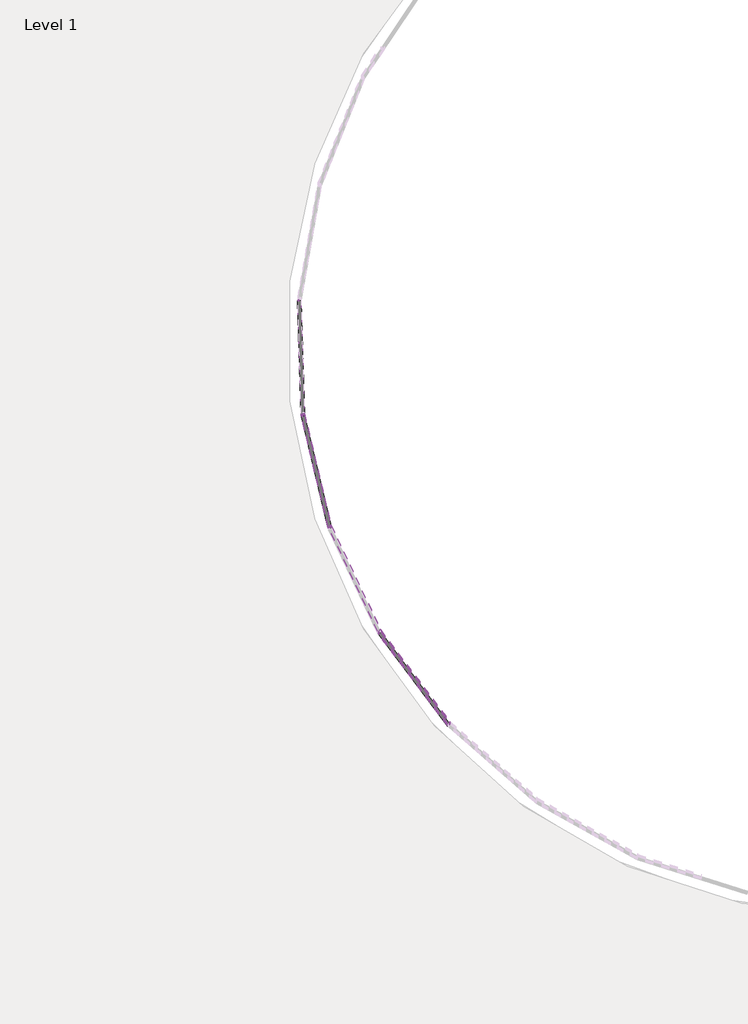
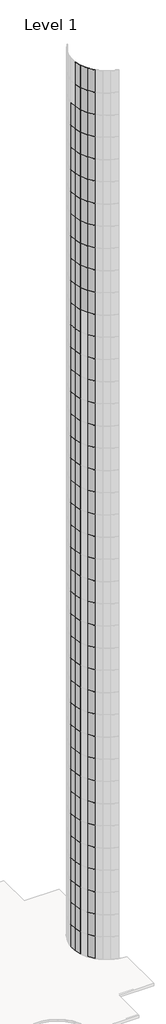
# One storey, part 11 of 19: 129 plates.
"""IFC4 building model written with IfcOpenShell, lengths in millimetres."""

from ifc_helpers import new_model, si_unit, origin, place, context, project, spatial, transform, mapped, element, save
from components import system_panel_glazed_d77d1ebf

model = new_model("IFC4")

# Units and contexts
model_context = context("Model", 3, world=origin())
ifc_project = project(units=[si_unit("LENGTHUNIT", "METRE", prefix="MILLI")], contexts=[model_context])

# Site, building, storey
site = spatial("IfcSite", under=ifc_project)
building = spatial("IfcBuilding", under=site)
storey = spatial("IfcBuildingStorey", under=building, Name="Level 1", Elevation=0.0)

# Plates
placement = place(None, origin())
system_panel_glazed_shape = system_panel_glazed_d77d1ebf(model_context)
element("IfcPlate", 1, ObjectType="System Panel : Glazed", at=placement, inside=storey, context=model_context, shape_type="MappedRepresentation", body=[
    mapped(system_panel_glazed_shape, transform((14455.7045003, -7223.0371257, 0.0), x_axis=(0.2338509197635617, -0.9722724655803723, 0.0), y_axis=(0.9722724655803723, 0.2338509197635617, 0.0), z_axis=(0.0, 0.0, 1.0))),
])
element("IfcPlate", 2, ObjectType="System Panel : Glazed", at=placement, inside=storey, context=model_context, shape_type="MappedRepresentation", body=[
    mapped(system_panel_glazed_shape, transform((15229.6531587, -8858.6471307, 0.0), x_axis=(0.6035123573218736, -0.7973536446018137, 0.0), y_axis=(0.7973536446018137, 0.6035123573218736, 0.0), z_axis=(0.0, 0.0, 1.0))),
])
element("IfcPlate", 3, ObjectType="System Panel : Glazed", at=placement, inside=storey, context=model_context, shape_type="MappedRepresentation", body=[
    mapped(system_panel_glazed_shape, transform((14455.7045003, -7223.0371257, 3048.0), x_axis=(0.2338509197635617, -0.9722724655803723, 0.0), y_axis=(0.9722724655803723, 0.2338509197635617, 0.0), z_axis=(0.0, 0.0, 1.0))),
])
element("IfcPlate", 4, ObjectType="System Panel : Glazed", at=placement, inside=storey, context=model_context, shape_type="MappedRepresentation", body=[
    mapped(system_panel_glazed_shape, transform((15229.6531587, -8858.6471307, 3048.0), x_axis=(0.6035123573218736, -0.7973536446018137, 0.0), y_axis=(0.7973536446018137, 0.6035123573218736, 0.0), z_axis=(0.0, 0.0, 1.0))),
])
element("IfcPlate", 5, ObjectType="System Panel : Glazed", at=placement, inside=storey, context=model_context, shape_type="MappedRepresentation", body=[
    mapped(system_panel_glazed_shape, transform((14455.7045003, -7223.0371257, 6096.0), x_axis=(0.2338509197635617, -0.9722724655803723, 0.0), y_axis=(0.9722724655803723, 0.2338509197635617, 0.0), z_axis=(0.0, 0.0, 1.0))),
])
element("IfcPlate", 6, ObjectType="System Panel : Glazed", at=placement, inside=storey, context=model_context, shape_type="MappedRepresentation", body=[
    mapped(system_panel_glazed_shape, transform((15229.6531587, -8858.6471307, 6096.0), x_axis=(0.6035123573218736, -0.7973536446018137, 0.0), y_axis=(0.7973536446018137, 0.6035123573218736, 0.0), z_axis=(0.0, 0.0, 1.0))),
])
element("IfcPlate", 7, ObjectType="System Panel : Glazed", at=placement, inside=storey, context=model_context, shape_type="MappedRepresentation", body=[
    mapped(system_panel_glazed_shape, transform((14455.7045003, -7223.0371257, 9144.0), x_axis=(0.2338509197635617, -0.9722724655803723, 0.0), y_axis=(0.9722724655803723, 0.2338509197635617, 0.0), z_axis=(0.0, 0.0, 1.0))),
])
element("IfcPlate", 8, ObjectType="System Panel : Glazed", at=placement, inside=storey, context=model_context, shape_type="MappedRepresentation", body=[
    mapped(system_panel_glazed_shape, transform((15229.6531587, -8858.6471307, 9144.0), x_axis=(0.6035123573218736, -0.7973536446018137, 0.0), y_axis=(0.7973536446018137, 0.6035123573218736, 0.0), z_axis=(0.0, 0.0, 1.0))),
])
element("IfcPlate", 9, ObjectType="System Panel : Glazed", at=placement, inside=storey, context=model_context, shape_type="MappedRepresentation", body=[
    mapped(system_panel_glazed_shape, transform((14455.7045003, -7223.0371257, 12192.0), x_axis=(0.2338509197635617, -0.9722724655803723, 0.0), y_axis=(0.9722724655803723, 0.2338509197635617, 0.0), z_axis=(0.0, 0.0, 1.0))),
])
element("IfcPlate", 10, ObjectType="System Panel : Glazed", at=placement, inside=storey, context=model_context, shape_type="MappedRepresentation", body=[
    mapped(system_panel_glazed_shape, transform((15229.6531587, -8858.6471307, 12192.0), x_axis=(0.6035123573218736, -0.7973536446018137, 0.0), y_axis=(0.7973536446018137, 0.6035123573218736, 0.0), z_axis=(0.0, 0.0, 1.0))),
])
element("IfcPlate", 11, ObjectType="System Panel : Glazed", at=placement, inside=storey, context=model_context, shape_type="MappedRepresentation", body=[
    mapped(system_panel_glazed_shape, transform((14455.7045003, -7223.0371257, 15240.0), x_axis=(0.2338509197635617, -0.9722724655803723, 0.0), y_axis=(0.9722724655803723, 0.2338509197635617, 0.0), z_axis=(0.0, 0.0, 1.0))),
])
element("IfcPlate", 12, ObjectType="System Panel : Glazed", at=placement, inside=storey, context=model_context, shape_type="MappedRepresentation", body=[
    mapped(system_panel_glazed_shape, transform((15229.6531587, -8858.6471307, 15240.0), x_axis=(0.6035123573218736, -0.7973536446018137, 0.0), y_axis=(0.7973536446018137, 0.6035123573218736, 0.0), z_axis=(0.0, 0.0, 1.0))),
])
element("IfcPlate", 13, ObjectType="System Panel : Glazed", at=placement, inside=storey, context=model_context, shape_type="MappedRepresentation", body=[
    mapped(system_panel_glazed_shape, transform((14455.7045003, -7223.0371257, 18288.0), x_axis=(0.2338509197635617, -0.9722724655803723, 0.0), y_axis=(0.9722724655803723, 0.2338509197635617, 0.0), z_axis=(0.0, 0.0, 1.0))),
])
element("IfcPlate", 14, ObjectType="System Panel : Glazed", at=placement, inside=storey, context=model_context, shape_type="MappedRepresentation", body=[
    mapped(system_panel_glazed_shape, transform((15229.6531587, -8858.6471307, 18288.0), x_axis=(0.6035123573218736, -0.7973536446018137, 0.0), y_axis=(0.7973536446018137, 0.6035123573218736, 0.0), z_axis=(0.0, 0.0, 1.0))),
])
element("IfcPlate", 15, ObjectType="System Panel : Glazed", at=placement, inside=storey, context=model_context, shape_type="MappedRepresentation", body=[
    mapped(system_panel_glazed_shape, transform((14455.7045003, -7223.0371257, 21336.0), x_axis=(0.2338509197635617, -0.9722724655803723, 0.0), y_axis=(0.9722724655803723, 0.2338509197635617, 0.0), z_axis=(0.0, 0.0, 1.0))),
])
element("IfcPlate", 16, ObjectType="System Panel : Glazed", at=placement, inside=storey, context=model_context, shape_type="MappedRepresentation", body=[
    mapped(system_panel_glazed_shape, transform((15229.6531587, -8858.6471307, 21336.0), x_axis=(0.6035123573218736, -0.7973536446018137, 0.0), y_axis=(0.7973536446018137, 0.6035123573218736, 0.0), z_axis=(0.0, 0.0, 1.0))),
])
element("IfcPlate", 17, ObjectType="System Panel : Glazed", at=placement, inside=storey, context=model_context, shape_type="MappedRepresentation", body=[
    mapped(system_panel_glazed_shape, transform((14455.7045003, -7223.0371257, 24384.0), x_axis=(0.2338509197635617, -0.9722724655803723, 0.0), y_axis=(0.9722724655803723, 0.2338509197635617, 0.0), z_axis=(0.0, 0.0, 1.0))),
])
element("IfcPlate", 18, ObjectType="System Panel : Glazed", at=placement, inside=storey, context=model_context, shape_type="MappedRepresentation", body=[
    mapped(system_panel_glazed_shape, transform((15229.6531587, -8858.6471307, 24384.0), x_axis=(0.6035123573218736, -0.7973536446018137, 0.0), y_axis=(0.7973536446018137, 0.6035123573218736, 0.0), z_axis=(0.0, 0.0, 1.0))),
])
element("IfcPlate", 19, ObjectType="System Panel : Glazed", at=placement, inside=storey, context=model_context, shape_type="MappedRepresentation", body=[
    mapped(system_panel_glazed_shape, transform((14455.7045003, -7223.0371257, 27432.0), x_axis=(0.2338509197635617, -0.9722724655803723, 0.0), y_axis=(0.9722724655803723, 0.2338509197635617, 0.0), z_axis=(0.0, 0.0, 1.0))),
])
element("IfcPlate", 20, ObjectType="System Panel : Glazed", at=placement, inside=storey, context=model_context, shape_type="MappedRepresentation", body=[
    mapped(system_panel_glazed_shape, transform((15229.6531587, -8858.6471307, 27432.0), x_axis=(0.6035123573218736, -0.7973536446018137, 0.0), y_axis=(0.7973536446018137, 0.6035123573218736, 0.0), z_axis=(0.0, 0.0, 1.0))),
])
element("IfcPlate", 21, ObjectType="System Panel : Glazed", at=placement, inside=storey, context=model_context, shape_type="MappedRepresentation", body=[
    mapped(system_panel_glazed_shape, transform((14455.7045003, -7223.0371257, 30480.0), x_axis=(0.2338509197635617, -0.9722724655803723, 0.0), y_axis=(0.9722724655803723, 0.2338509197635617, 0.0), z_axis=(0.0, 0.0, 1.0))),
])
element("IfcPlate", 22, ObjectType="System Panel : Glazed", at=placement, inside=storey, context=model_context, shape_type="MappedRepresentation", body=[
    mapped(system_panel_glazed_shape, transform((15229.6531587, -8858.6471307, 30480.0), x_axis=(0.6035123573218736, -0.7973536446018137, 0.0), y_axis=(0.7973536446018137, 0.6035123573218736, 0.0), z_axis=(0.0, 0.0, 1.0))),
])
element("IfcPlate", 23, ObjectType="System Panel : Glazed", at=placement, inside=storey, context=model_context, shape_type="MappedRepresentation", body=[
    mapped(system_panel_glazed_shape, transform((14455.7045003, -7223.0371257, 33528.0), x_axis=(0.2338509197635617, -0.9722724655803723, 0.0), y_axis=(0.9722724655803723, 0.2338509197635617, 0.0), z_axis=(0.0, 0.0, 1.0))),
])
element("IfcPlate", 24, ObjectType="System Panel : Glazed", at=placement, inside=storey, context=model_context, shape_type="MappedRepresentation", body=[
    mapped(system_panel_glazed_shape, transform((15229.6531587, -8858.6471307, 33528.0), x_axis=(0.6035123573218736, -0.7973536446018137, 0.0), y_axis=(0.7973536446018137, 0.6035123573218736, 0.0), z_axis=(0.0, 0.0, 1.0))),
])
element("IfcPlate", 25, ObjectType="System Panel : Glazed", at=placement, inside=storey, context=model_context, shape_type="MappedRepresentation", body=[
    mapped(system_panel_glazed_shape, transform((14455.7045003, -7223.0371257, 36576.0), x_axis=(0.2338509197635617, -0.9722724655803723, 0.0), y_axis=(0.9722724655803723, 0.2338509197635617, 0.0), z_axis=(0.0, 0.0, 1.0))),
])
element("IfcPlate", 26, ObjectType="System Panel : Glazed", at=placement, inside=storey, context=model_context, shape_type="MappedRepresentation", body=[
    mapped(system_panel_glazed_shape, transform((15229.6531587, -8858.6471307, 36576.0), x_axis=(0.6035123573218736, -0.7973536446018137, 0.0), y_axis=(0.7973536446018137, 0.6035123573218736, 0.0), z_axis=(0.0, 0.0, 1.0))),
])
element("IfcPlate", 27, ObjectType="System Panel : Glazed", at=placement, inside=storey, context=model_context, shape_type="MappedRepresentation", body=[
    mapped(system_panel_glazed_shape, transform((14455.7045003, -7223.0371257, 39624.0), x_axis=(0.2338509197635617, -0.9722724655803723, 0.0), y_axis=(0.9722724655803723, 0.2338509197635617, 0.0), z_axis=(0.0, 0.0, 1.0))),
])
element("IfcPlate", 28, ObjectType="System Panel : Glazed", at=placement, inside=storey, context=model_context, shape_type="MappedRepresentation", body=[
    mapped(system_panel_glazed_shape, transform((15229.6531587, -8858.6471307, 39624.0), x_axis=(0.6035123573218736, -0.7973536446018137, 0.0), y_axis=(0.7973536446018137, 0.6035123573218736, 0.0), z_axis=(0.0, 0.0, 1.0))),
])
element("IfcPlate", 29, ObjectType="System Panel : Glazed", at=placement, inside=storey, context=model_context, shape_type="MappedRepresentation", body=[
    mapped(system_panel_glazed_shape, transform((14455.7045003, -7223.0371257, 42672.0), x_axis=(0.2338509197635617, -0.9722724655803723, 0.0), y_axis=(0.9722724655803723, 0.2338509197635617, 0.0), z_axis=(0.0, 0.0, 1.0))),
])
element("IfcPlate", 30, ObjectType="System Panel : Glazed", at=placement, inside=storey, context=model_context, shape_type="MappedRepresentation", body=[
    mapped(system_panel_glazed_shape, transform((15229.6531587, -8858.6471307, 42672.0), x_axis=(0.6035123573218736, -0.7973536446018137, 0.0), y_axis=(0.7973536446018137, 0.6035123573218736, 0.0), z_axis=(0.0, 0.0, 1.0))),
])
element("IfcPlate", 31, ObjectType="System Panel : Glazed", at=placement, inside=storey, context=model_context, shape_type="MappedRepresentation", body=[
    mapped(system_panel_glazed_shape, transform((14455.7045003, -7223.0371257, 45720.0), x_axis=(0.2338509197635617, -0.9722724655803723, 0.0), y_axis=(0.9722724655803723, 0.2338509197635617, 0.0), z_axis=(0.0, 0.0, 1.0))),
])
element("IfcPlate", 32, ObjectType="System Panel : Glazed", at=placement, inside=storey, context=model_context, shape_type="MappedRepresentation", body=[
    mapped(system_panel_glazed_shape, transform((15229.6531587, -8858.6471307, 45720.0), x_axis=(0.6035123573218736, -0.7973536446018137, 0.0), y_axis=(0.7973536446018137, 0.6035123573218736, 0.0), z_axis=(0.0, 0.0, 1.0))),
])
element("IfcPlate", 33, ObjectType="System Panel : Glazed", at=placement, inside=storey, context=model_context, shape_type="MappedRepresentation", body=[
    mapped(system_panel_glazed_shape, transform((14455.7045003, -7223.0371257, 48768.0), x_axis=(0.2338509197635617, -0.9722724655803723, 0.0), y_axis=(0.9722724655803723, 0.2338509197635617, 0.0), z_axis=(0.0, 0.0, 1.0))),
])
element("IfcPlate", 34, ObjectType="System Panel : Glazed", at=placement, inside=storey, context=model_context, shape_type="MappedRepresentation", body=[
    mapped(system_panel_glazed_shape, transform((15229.6531587, -8858.6471307, 48768.0), x_axis=(0.6035123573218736, -0.7973536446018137, 0.0), y_axis=(0.7973536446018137, 0.6035123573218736, 0.0), z_axis=(0.0, 0.0, 1.0))),
])
element("IfcPlate", 35, ObjectType="System Panel : Glazed", at=placement, inside=storey, context=model_context, shape_type="MappedRepresentation", body=[
    mapped(system_panel_glazed_shape, transform((14455.7045003, -7223.0371257, 51816.0), x_axis=(0.2338509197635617, -0.9722724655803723, 0.0), y_axis=(0.9722724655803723, 0.2338509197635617, 0.0), z_axis=(0.0, 0.0, 1.0))),
])
element("IfcPlate", 36, ObjectType="System Panel : Glazed", at=placement, inside=storey, context=model_context, shape_type="MappedRepresentation", body=[
    mapped(system_panel_glazed_shape, transform((15229.6531587, -8858.6471307, 51816.0), x_axis=(0.6035123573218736, -0.7973536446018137, 0.0), y_axis=(0.7973536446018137, 0.6035123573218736, 0.0), z_axis=(0.0, 0.0, 1.0))),
])
element("IfcPlate", 37, ObjectType="System Panel : Glazed", at=placement, inside=storey, context=model_context, shape_type="MappedRepresentation", body=[
    mapped(system_panel_glazed_shape, transform((14455.7045003, -7223.0371257, 54864.0), x_axis=(0.2338509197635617, -0.9722724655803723, 0.0), y_axis=(0.9722724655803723, 0.2338509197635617, 0.0), z_axis=(0.0, 0.0, 1.0))),
])
element("IfcPlate", 38, ObjectType="System Panel : Glazed", at=placement, inside=storey, context=model_context, shape_type="MappedRepresentation", body=[
    mapped(system_panel_glazed_shape, transform((15229.6531587, -8858.6471307, 54864.0), x_axis=(0.6035123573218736, -0.7973536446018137, 0.0), y_axis=(0.7973536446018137, 0.6035123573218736, 0.0), z_axis=(0.0, 0.0, 1.0))),
])
element("IfcPlate", 39, ObjectType="System Panel : Glazed", at=placement, inside=storey, context=model_context, shape_type="MappedRepresentation", body=[
    mapped(system_panel_glazed_shape, transform((14455.7045003, -7223.0371257, 57912.0), x_axis=(0.2338509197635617, -0.9722724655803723, 0.0), y_axis=(0.9722724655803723, 0.2338509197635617, 0.0), z_axis=(0.0, 0.0, 1.0))),
])
element("IfcPlate", 40, ObjectType="System Panel : Glazed", at=placement, inside=storey, context=model_context, shape_type="MappedRepresentation", body=[
    mapped(system_panel_glazed_shape, transform((15229.6531587, -8858.6471307, 57912.0), x_axis=(0.6035123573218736, -0.7973536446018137, 0.0), y_axis=(0.7973536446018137, 0.6035123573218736, 0.0), z_axis=(0.0, 0.0, 1.0))),
])
element("IfcPlate", 41, ObjectType="System Panel : Glazed", at=placement, inside=storey, context=model_context, shape_type="MappedRepresentation", body=[
    mapped(system_panel_glazed_shape, transform((14455.7045003, -7223.0371257, 60960.0), x_axis=(0.2338509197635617, -0.9722724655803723, 0.0), y_axis=(0.9722724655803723, 0.2338509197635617, 0.0), z_axis=(0.0, 0.0, 1.0))),
])
element("IfcPlate", 42, ObjectType="System Panel : Glazed", at=placement, inside=storey, context=model_context, shape_type="MappedRepresentation", body=[
    mapped(system_panel_glazed_shape, transform((15229.6531587, -8858.6471307, 60960.0), x_axis=(0.6035123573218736, -0.7973536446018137, 0.0), y_axis=(0.7973536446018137, 0.6035123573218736, 0.0), z_axis=(0.0, 0.0, 1.0))),
])
element("IfcPlate", 43, ObjectType="System Panel : Glazed", at=placement, inside=storey, context=model_context, shape_type="MappedRepresentation", body=[
    mapped(system_panel_glazed_shape, transform((14455.7045003, -7223.0371257, 64008.0), x_axis=(0.2338509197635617, -0.9722724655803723, 0.0), y_axis=(0.9722724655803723, 0.2338509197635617, 0.0), z_axis=(0.0, 0.0, 1.0))),
])
element("IfcPlate", 44, ObjectType="System Panel : Glazed", at=placement, inside=storey, context=model_context, shape_type="MappedRepresentation", body=[
    mapped(system_panel_glazed_shape, transform((15229.6531587, -8858.6471307, 64008.0), x_axis=(0.6035123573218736, -0.7973536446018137, 0.0), y_axis=(0.7973536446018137, 0.6035123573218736, 0.0), z_axis=(0.0, 0.0, 1.0))),
])
element("IfcPlate", 45, ObjectType="System Panel : Glazed", at=placement, inside=storey, context=model_context, shape_type="MappedRepresentation", body=[
    mapped(system_panel_glazed_shape, transform((14455.7045003, -7223.0371257, 67056.0), x_axis=(0.2338509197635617, -0.9722724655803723, 0.0), y_axis=(0.9722724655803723, 0.2338509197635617, 0.0), z_axis=(0.0, 0.0, 1.0))),
])
element("IfcPlate", 46, ObjectType="System Panel : Glazed", at=placement, inside=storey, context=model_context, shape_type="MappedRepresentation", body=[
    mapped(system_panel_glazed_shape, transform((15229.6531587, -8858.6471307, 67056.0), x_axis=(0.6035123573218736, -0.7973536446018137, 0.0), y_axis=(0.7973536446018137, 0.6035123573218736, 0.0), z_axis=(0.0, 0.0, 1.0))),
])
element("IfcPlate", 47, ObjectType="System Panel : Glazed", at=placement, inside=storey, context=model_context, shape_type="MappedRepresentation", body=[
    mapped(system_panel_glazed_shape, transform((14455.7045003, -7223.0371257, 70104.0), x_axis=(0.2338509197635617, -0.9722724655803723, 0.0), y_axis=(0.9722724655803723, 0.2338509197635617, 0.0), z_axis=(0.0, 0.0, 1.0))),
])
element("IfcPlate", 48, ObjectType="System Panel : Glazed", at=placement, inside=storey, context=model_context, shape_type="MappedRepresentation", body=[
    mapped(system_panel_glazed_shape, transform((15229.6531587, -8858.6471307, 70104.0), x_axis=(0.6035123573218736, -0.7973536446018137, 0.0), y_axis=(0.7973536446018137, 0.6035123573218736, 0.0), z_axis=(0.0, 0.0, 1.0))),
])
element("IfcPlate", 49, ObjectType="System Panel : Glazed", at=placement, inside=storey, context=model_context, shape_type="MappedRepresentation", body=[
    mapped(system_panel_glazed_shape, transform((14455.7045003, -7223.0371257, 73152.0), x_axis=(0.2338509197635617, -0.9722724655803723, 0.0), y_axis=(0.9722724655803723, 0.2338509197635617, 0.0), z_axis=(0.0, 0.0, 1.0))),
])
element("IfcPlate", 50, ObjectType="System Panel : Glazed", at=placement, inside=storey, context=model_context, shape_type="MappedRepresentation", body=[
    mapped(system_panel_glazed_shape, transform((15229.6531587, -8858.6471307, 73152.0), x_axis=(0.6035123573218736, -0.7973536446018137, 0.0), y_axis=(0.7973536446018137, 0.6035123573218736, 0.0), z_axis=(0.0, 0.0, 1.0))),
])
element("IfcPlate", 51, ObjectType="System Panel : Glazed", at=placement, inside=storey, context=model_context, shape_type="MappedRepresentation", body=[
    mapped(system_panel_glazed_shape, transform((14455.7045003, -7223.0371257, 76200.0), x_axis=(0.2338509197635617, -0.9722724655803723, 0.0), y_axis=(0.9722724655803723, 0.2338509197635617, 0.0), z_axis=(0.0, 0.0, 1.0))),
])
element("IfcPlate", 52, ObjectType="System Panel : Glazed", at=placement, inside=storey, context=model_context, shape_type="MappedRepresentation", body=[
    mapped(system_panel_glazed_shape, transform((15229.6531587, -8858.6471307, 76200.0), x_axis=(0.6035123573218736, -0.7973536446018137, 0.0), y_axis=(0.7973536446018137, 0.6035123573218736, 0.0), z_axis=(0.0, 0.0, 1.0))),
])
element("IfcPlate", 53, ObjectType="System Panel : Glazed", at=placement, inside=storey, context=model_context, shape_type="MappedRepresentation", body=[
    mapped(system_panel_glazed_shape, transform((14455.7045003, -7223.0371257, 79248.0), x_axis=(0.2338509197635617, -0.9722724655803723, 0.0), y_axis=(0.9722724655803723, 0.2338509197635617, 0.0), z_axis=(0.0, 0.0, 1.0))),
])
element("IfcPlate", 54, ObjectType="System Panel : Glazed", at=placement, inside=storey, context=model_context, shape_type="MappedRepresentation", body=[
    mapped(system_panel_glazed_shape, transform((15229.6531587, -8858.6471307, 79248.0), x_axis=(0.6035123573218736, -0.7973536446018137, 0.0), y_axis=(0.7973536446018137, 0.6035123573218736, 0.0), z_axis=(0.0, 0.0, 1.0))),
])
element("IfcPlate", 55, ObjectType="System Panel : Glazed", at=placement, inside=storey, context=model_context, shape_type="MappedRepresentation", body=[
    mapped(system_panel_glazed_shape, transform((14455.7045003, -7223.0371257, 82296.0), x_axis=(0.2338509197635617, -0.9722724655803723, 0.0), y_axis=(0.9722724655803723, 0.2338509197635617, 0.0), z_axis=(0.0, 0.0, 1.0))),
])
element("IfcPlate", 56, ObjectType="System Panel : Glazed", at=placement, inside=storey, context=model_context, shape_type="MappedRepresentation", body=[
    mapped(system_panel_glazed_shape, transform((15229.6531587, -8858.6471307, 82296.0), x_axis=(0.6035123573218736, -0.7973536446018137, 0.0), y_axis=(0.7973536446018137, 0.6035123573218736, 0.0), z_axis=(0.0, 0.0, 1.0))),
])
element("IfcPlate", 57, ObjectType="System Panel : Glazed", at=placement, inside=storey, context=model_context, shape_type="MappedRepresentation", body=[
    mapped(system_panel_glazed_shape, transform((14455.7045003, -7223.0371257, 85344.0), x_axis=(0.2338509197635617, -0.9722724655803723, 0.0), y_axis=(0.9722724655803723, 0.2338509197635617, 0.0), z_axis=(0.0, 0.0, 1.0))),
])
element("IfcPlate", 58, ObjectType="System Panel : Glazed", at=placement, inside=storey, context=model_context, shape_type="MappedRepresentation", body=[
    mapped(system_panel_glazed_shape, transform((15229.6531587, -8858.6471307, 85344.0), x_axis=(0.6035123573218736, -0.7973536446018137, 0.0), y_axis=(0.7973536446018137, 0.6035123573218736, 0.0), z_axis=(0.0, 0.0, 1.0))),
])
element("IfcPlate", 59, ObjectType="System Panel : Glazed", at=placement, inside=storey, context=model_context, shape_type="MappedRepresentation", body=[
    mapped(system_panel_glazed_shape, transform((14455.7045003, -7223.0371257, 88392.0), x_axis=(0.2338509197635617, -0.9722724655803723, 0.0), y_axis=(0.9722724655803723, 0.2338509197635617, 0.0), z_axis=(0.0, 0.0, 1.0))),
])
element("IfcPlate", 60, ObjectType="System Panel : Glazed", at=placement, inside=storey, context=model_context, shape_type="MappedRepresentation", body=[
    mapped(system_panel_glazed_shape, transform((14758.1742249, -8080.8285707, 88392.0), x_axis=(0.4277189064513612, -0.9039117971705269, 0.0), y_axis=(0.9039117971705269, 0.4277189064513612, 0.0), z_axis=(0.0, 0.0, 1.0))),
])
element("IfcPlate", 61, ObjectType="System Panel : Glazed", at=placement, inside=storey, context=model_context, shape_type="MappedRepresentation", body=[
    mapped(system_panel_glazed_shape, transform((15229.6531587, -8858.6471307, 88392.0), x_axis=(0.6035123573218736, -0.7973536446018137, 0.0), y_axis=(0.7973536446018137, 0.6035123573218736, 0.0), z_axis=(0.0, 0.0, 1.0))),
])
element("IfcPlate", 62, ObjectType="System Panel : Glazed", at=placement, inside=storey, context=model_context, shape_type="MappedRepresentation", body=[
    mapped(system_panel_glazed_shape, transform((14455.7045003, -7223.0371257, 91440.0), x_axis=(0.2338509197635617, -0.9722724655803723, 0.0), y_axis=(0.9722724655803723, 0.2338509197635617, 0.0), z_axis=(0.0, 0.0, 1.0))),
])
element("IfcPlate", 63, ObjectType="System Panel : Glazed", at=placement, inside=storey, context=model_context, shape_type="MappedRepresentation", body=[
    mapped(system_panel_glazed_shape, transform((14758.1742249, -8080.8285707, 91440.0), x_axis=(0.4277189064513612, -0.9039117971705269, 0.0), y_axis=(0.9039117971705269, 0.4277189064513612, 0.0), z_axis=(0.0, 0.0, 1.0))),
])
element("IfcPlate", 64, ObjectType="System Panel : Glazed", at=placement, inside=storey, context=model_context, shape_type="MappedRepresentation", body=[
    mapped(system_panel_glazed_shape, transform((15229.6531587, -8858.6471307, 91440.0), x_axis=(0.6035123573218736, -0.7973536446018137, 0.0), y_axis=(0.7973536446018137, 0.6035123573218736, 0.0), z_axis=(0.0, 0.0, 1.0))),
])
element("IfcPlate", 65, ObjectType="System Panel : Glazed", at=placement, inside=storey, context=model_context, shape_type="MappedRepresentation", body=[
    mapped(system_panel_glazed_shape, transform((14455.7045003, -7223.0371257, 94488.0), x_axis=(0.2338509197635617, -0.9722724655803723, 0.0), y_axis=(0.9722724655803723, 0.2338509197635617, 0.0), z_axis=(0.0, 0.0, 1.0))),
])
element("IfcPlate", 66, ObjectType="System Panel : Glazed", at=placement, inside=storey, context=model_context, shape_type="MappedRepresentation", body=[
    mapped(system_panel_glazed_shape, transform((14758.1742249, -8080.8285707, 94488.0), x_axis=(0.4277189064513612, -0.9039117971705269, 0.0), y_axis=(0.9039117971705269, 0.4277189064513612, 0.0), z_axis=(0.0, 0.0, 1.0))),
])
element("IfcPlate", 67, ObjectType="System Panel : Glazed", at=placement, inside=storey, context=model_context, shape_type="MappedRepresentation", body=[
    mapped(system_panel_glazed_shape, transform((15229.6531587, -8858.6471307, 94488.0), x_axis=(0.6035123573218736, -0.7973536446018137, 0.0), y_axis=(0.7973536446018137, 0.6035123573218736, 0.0), z_axis=(0.0, 0.0, 1.0))),
])
element("IfcPlate", 68, ObjectType="System Panel : Glazed", at=placement, inside=storey, context=model_context, shape_type="MappedRepresentation", body=[
    mapped(system_panel_glazed_shape, transform((14455.7045003, -7223.0371257, 97536.0), x_axis=(0.2338509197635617, -0.9722724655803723, 0.0), y_axis=(0.9722724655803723, 0.2338509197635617, 0.0), z_axis=(0.0, 0.0, 1.0))),
])
element("IfcPlate", 69, ObjectType="System Panel : Glazed", at=placement, inside=storey, context=model_context, shape_type="MappedRepresentation", body=[
    mapped(system_panel_glazed_shape, transform((14758.1742249, -8080.8285707, 97536.0), x_axis=(0.4277189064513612, -0.9039117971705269, 0.0), y_axis=(0.9039117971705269, 0.4277189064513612, 0.0), z_axis=(0.0, 0.0, 1.0))),
])
element("IfcPlate", 70, ObjectType="System Panel : Glazed", at=placement, inside=storey, context=model_context, shape_type="MappedRepresentation", body=[
    mapped(system_panel_glazed_shape, transform((15229.6531587, -8858.6471307, 97536.0), x_axis=(0.6035123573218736, -0.7973536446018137, 0.0), y_axis=(0.7973536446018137, 0.6035123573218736, 0.0), z_axis=(0.0, 0.0, 1.0))),
])
element("IfcPlate", 71, ObjectType="System Panel : Glazed", at=placement, inside=storey, context=model_context, shape_type="MappedRepresentation", body=[
    mapped(system_panel_glazed_shape, transform((14455.7045003, -7223.0371257, 100584.0), x_axis=(0.2338509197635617, -0.9722724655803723, 0.0), y_axis=(0.9722724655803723, 0.2338509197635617, 0.0), z_axis=(0.0, 0.0, 1.0))),
])
element("IfcPlate", 72, ObjectType="System Panel : Glazed", at=placement, inside=storey, context=model_context, shape_type="MappedRepresentation", body=[
    mapped(system_panel_glazed_shape, transform((14758.1742249, -8080.8285707, 100584.0), x_axis=(0.4277189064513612, -0.9039117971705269, 0.0), y_axis=(0.9039117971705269, 0.4277189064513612, 0.0), z_axis=(0.0, 0.0, 1.0))),
])
element("IfcPlate", 73, ObjectType="System Panel : Glazed", at=placement, inside=storey, context=model_context, shape_type="MappedRepresentation", body=[
    mapped(system_panel_glazed_shape, transform((15229.6531587, -8858.6471307, 100584.0), x_axis=(0.6035123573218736, -0.7973536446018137, 0.0), y_axis=(0.7973536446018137, 0.6035123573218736, 0.0), z_axis=(0.0, 0.0, 1.0))),
])
element("IfcPlate", 74, ObjectType="System Panel : Glazed", at=placement, inside=storey, context=model_context, shape_type="MappedRepresentation", body=[
    mapped(system_panel_glazed_shape, transform((14335.0257438, -6321.5213272, 0.0), x_axis=(0.030100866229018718, -0.9995468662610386, 0.0), y_axis=(0.9995468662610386, 0.030100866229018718, 0.0), z_axis=(0.0, 0.0, 1.0))),
])
element("IfcPlate", 75, ObjectType="System Panel : Glazed", at=placement, inside=storey, context=model_context, shape_type="MappedRepresentation", body=[
    mapped(system_panel_glazed_shape, transform((14335.0257438, -6321.5213272, 3048.0), x_axis=(0.030100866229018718, -0.9995468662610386, 0.0), y_axis=(0.9995468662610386, 0.030100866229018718, 0.0), z_axis=(0.0, 0.0, 1.0))),
])
element("IfcPlate", 76, ObjectType="System Panel : Glazed", at=placement, inside=storey, context=model_context, shape_type="MappedRepresentation", body=[
    mapped(system_panel_glazed_shape, transform((14335.0257438, -6321.5213272, 6096.0), x_axis=(0.030100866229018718, -0.9995468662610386, 0.0), y_axis=(0.9995468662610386, 0.030100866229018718, 0.0), z_axis=(0.0, 0.0, 1.0))),
])
element("IfcPlate", 77, ObjectType="System Panel : Glazed", at=placement, inside=storey, context=model_context, shape_type="MappedRepresentation", body=[
    mapped(system_panel_glazed_shape, transform((14335.0257438, -6321.5213272, 9144.0), x_axis=(0.030100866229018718, -0.9995468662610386, 0.0), y_axis=(0.9995468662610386, 0.030100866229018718, 0.0), z_axis=(0.0, 0.0, 1.0))),
])
element("IfcPlate", 78, ObjectType="System Panel : Glazed", at=placement, inside=storey, context=model_context, shape_type="MappedRepresentation", body=[
    mapped(system_panel_glazed_shape, transform((14335.0257438, -6321.5213272, 12192.0), x_axis=(0.030100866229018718, -0.9995468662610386, 0.0), y_axis=(0.9995468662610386, 0.030100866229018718, 0.0), z_axis=(0.0, 0.0, 1.0))),
])
element("IfcPlate", 79, ObjectType="System Panel : Glazed", at=placement, inside=storey, context=model_context, shape_type="MappedRepresentation", body=[
    mapped(system_panel_glazed_shape, transform((14335.0257438, -6321.5213272, 15240.0), x_axis=(0.030100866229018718, -0.9995468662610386, 0.0), y_axis=(0.9995468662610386, 0.030100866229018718, 0.0), z_axis=(0.0, 0.0, 1.0))),
])
element("IfcPlate", 80, ObjectType="System Panel : Glazed", at=placement, inside=storey, context=model_context, shape_type="MappedRepresentation", body=[
    mapped(system_panel_glazed_shape, transform((14335.0257438, -6321.5213272, 18288.0), x_axis=(0.030100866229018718, -0.9995468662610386, 0.0), y_axis=(0.9995468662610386, 0.030100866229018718, 0.0), z_axis=(0.0, 0.0, 1.0))),
])
element("IfcPlate", 81, ObjectType="System Panel : Glazed", at=placement, inside=storey, context=model_context, shape_type="MappedRepresentation", body=[
    mapped(system_panel_glazed_shape, transform((14335.0257438, -6321.5213272, 21336.0), x_axis=(0.030100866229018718, -0.9995468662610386, 0.0), y_axis=(0.9995468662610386, 0.030100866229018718, 0.0), z_axis=(0.0, 0.0, 1.0))),
])
element("IfcPlate", 82, ObjectType="System Panel : Glazed", at=placement, inside=storey, context=model_context, shape_type="MappedRepresentation", body=[
    mapped(system_panel_glazed_shape, transform((14335.0257438, -6321.5213272, 24384.0), x_axis=(0.030100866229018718, -0.9995468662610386, 0.0), y_axis=(0.9995468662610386, 0.030100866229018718, 0.0), z_axis=(0.0, 0.0, 1.0))),
])
element("IfcPlate", 83, ObjectType="System Panel : Glazed", at=placement, inside=storey, context=model_context, shape_type="MappedRepresentation", body=[
    mapped(system_panel_glazed_shape, transform((14335.0257438, -6321.5213272, 27432.0), x_axis=(0.030100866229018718, -0.9995468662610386, 0.0), y_axis=(0.9995468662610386, 0.030100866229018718, 0.0), z_axis=(0.0, 0.0, 1.0))),
])
element("IfcPlate", 84, ObjectType="System Panel : Glazed", at=placement, inside=storey, context=model_context, shape_type="MappedRepresentation", body=[
    mapped(system_panel_glazed_shape, transform((14335.0257438, -6321.5213272, 30480.0), x_axis=(0.030100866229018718, -0.9995468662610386, 0.0), y_axis=(0.9995468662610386, 0.030100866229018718, 0.0), z_axis=(0.0, 0.0, 1.0))),
])
element("IfcPlate", 85, ObjectType="System Panel : Glazed", at=placement, inside=storey, context=model_context, shape_type="MappedRepresentation", body=[
    mapped(system_panel_glazed_shape, transform((14335.0257438, -6321.5213272, 33528.0), x_axis=(0.030100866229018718, -0.9995468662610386, 0.0), y_axis=(0.9995468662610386, 0.030100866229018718, 0.0), z_axis=(0.0, 0.0, 1.0))),
])
element("IfcPlate", 86, ObjectType="System Panel : Glazed", at=placement, inside=storey, context=model_context, shape_type="MappedRepresentation", body=[
    mapped(system_panel_glazed_shape, transform((14335.0257438, -6321.5213272, 36576.0), x_axis=(0.030100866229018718, -0.9995468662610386, 0.0), y_axis=(0.9995468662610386, 0.030100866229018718, 0.0), z_axis=(0.0, 0.0, 1.0))),
])
element("IfcPlate", 87, ObjectType="System Panel : Glazed", at=placement, inside=storey, context=model_context, shape_type="MappedRepresentation", body=[
    mapped(system_panel_glazed_shape, transform((14335.0257438, -6321.5213272, 39624.0), x_axis=(0.030100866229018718, -0.9995468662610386, 0.0), y_axis=(0.9995468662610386, 0.030100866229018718, 0.0), z_axis=(0.0, 0.0, 1.0))),
])
element("IfcPlate", 88, ObjectType="System Panel : Glazed", at=placement, inside=storey, context=model_context, shape_type="MappedRepresentation", body=[
    mapped(system_panel_glazed_shape, transform((14335.0257438, -6321.5213272, 42672.0), x_axis=(0.030100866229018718, -0.9995468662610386, 0.0), y_axis=(0.9995468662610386, 0.030100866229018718, 0.0), z_axis=(0.0, 0.0, 1.0))),
])
element("IfcPlate", 89, ObjectType="System Panel : Glazed", at=placement, inside=storey, context=model_context, shape_type="MappedRepresentation", body=[
    mapped(system_panel_glazed_shape, transform((14335.0257438, -6321.5213272, 45720.0), x_axis=(0.030100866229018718, -0.9995468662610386, 0.0), y_axis=(0.9995468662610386, 0.030100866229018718, 0.0), z_axis=(0.0, 0.0, 1.0))),
])
element("IfcPlate", 90, ObjectType="System Panel : Glazed", at=placement, inside=storey, context=model_context, shape_type="MappedRepresentation", body=[
    mapped(system_panel_glazed_shape, transform((14335.0257438, -6321.5213272, 48768.0), x_axis=(0.030100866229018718, -0.9995468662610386, 0.0), y_axis=(0.9995468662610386, 0.030100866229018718, 0.0), z_axis=(0.0, 0.0, 1.0))),
])
element("IfcPlate", 91, ObjectType="System Panel : Glazed", at=placement, inside=storey, context=model_context, shape_type="MappedRepresentation", body=[
    mapped(system_panel_glazed_shape, transform((14335.0257438, -6321.5213272, 51816.0), x_axis=(0.030100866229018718, -0.9995468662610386, 0.0), y_axis=(0.9995468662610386, 0.030100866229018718, 0.0), z_axis=(0.0, 0.0, 1.0))),
])
element("IfcPlate", 92, ObjectType="System Panel : Glazed", at=placement, inside=storey, context=model_context, shape_type="MappedRepresentation", body=[
    mapped(system_panel_glazed_shape, transform((14335.0257438, -6321.5213272, 54864.0), x_axis=(0.030100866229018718, -0.9995468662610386, 0.0), y_axis=(0.9995468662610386, 0.030100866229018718, 0.0), z_axis=(0.0, 0.0, 1.0))),
])
element("IfcPlate", 93, ObjectType="System Panel : Glazed", at=placement, inside=storey, context=model_context, shape_type="MappedRepresentation", body=[
    mapped(system_panel_glazed_shape, transform((14335.0257438, -6321.5213272, 57912.0), x_axis=(0.030100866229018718, -0.9995468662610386, 0.0), y_axis=(0.9995468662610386, 0.030100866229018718, 0.0), z_axis=(0.0, 0.0, 1.0))),
])
element("IfcPlate", 94, ObjectType="System Panel : Glazed", at=placement, inside=storey, context=model_context, shape_type="MappedRepresentation", body=[
    mapped(system_panel_glazed_shape, transform((14335.0257438, -6321.5213272, 60960.0), x_axis=(0.030100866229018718, -0.9995468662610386, 0.0), y_axis=(0.9995468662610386, 0.030100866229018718, 0.0), z_axis=(0.0, 0.0, 1.0))),
])
element("IfcPlate", 95, ObjectType="System Panel : Glazed", at=placement, inside=storey, context=model_context, shape_type="MappedRepresentation", body=[
    mapped(system_panel_glazed_shape, transform((14335.0257438, -6321.5213272, 64008.0), x_axis=(0.030100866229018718, -0.9995468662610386, 0.0), y_axis=(0.9995468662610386, 0.030100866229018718, 0.0), z_axis=(0.0, 0.0, 1.0))),
])
element("IfcPlate", 96, ObjectType="System Panel : Glazed", at=placement, inside=storey, context=model_context, shape_type="MappedRepresentation", body=[
    mapped(system_panel_glazed_shape, transform((14335.0257438, -6321.5213272, 67056.0), x_axis=(0.030100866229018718, -0.9995468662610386, 0.0), y_axis=(0.9995468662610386, 0.030100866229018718, 0.0), z_axis=(0.0, 0.0, 1.0))),
])
element("IfcPlate", 97, ObjectType="System Panel : Glazed", at=placement, inside=storey, context=model_context, shape_type="MappedRepresentation", body=[
    mapped(system_panel_glazed_shape, transform((14335.0257438, -6321.5213272, 70104.0), x_axis=(0.030100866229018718, -0.9995468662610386, 0.0), y_axis=(0.9995468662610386, 0.030100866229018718, 0.0), z_axis=(0.0, 0.0, 1.0))),
])
element("IfcPlate", 98, ObjectType="System Panel : Glazed", at=placement, inside=storey, context=model_context, shape_type="MappedRepresentation", body=[
    mapped(system_panel_glazed_shape, transform((14335.0257438, -6321.5213272, 73152.0), x_axis=(0.030100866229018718, -0.9995468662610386, 0.0), y_axis=(0.9995468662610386, 0.030100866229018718, 0.0), z_axis=(0.0, 0.0, 1.0))),
])
element("IfcPlate", 99, ObjectType="System Panel : Glazed", at=placement, inside=storey, context=model_context, shape_type="MappedRepresentation", body=[
    mapped(system_panel_glazed_shape, transform((14335.0257438, -6321.5213272, 76200.0), x_axis=(0.030100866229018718, -0.9995468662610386, 0.0), y_axis=(0.9995468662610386, 0.030100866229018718, 0.0), z_axis=(0.0, 0.0, 1.0))),
])
element("IfcPlate", 100, ObjectType="System Panel : Glazed", at=placement, inside=storey, context=model_context, shape_type="MappedRepresentation", body=[
    mapped(system_panel_glazed_shape, transform((14335.0257438, -6321.5213272, 79248.0), x_axis=(0.030100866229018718, -0.9995468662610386, 0.0), y_axis=(0.9995468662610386, 0.030100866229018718, 0.0), z_axis=(0.0, 0.0, 1.0))),
])
element("IfcPlate", 101, ObjectType="System Panel : Glazed", at=placement, inside=storey, context=model_context, shape_type="MappedRepresentation", body=[
    mapped(system_panel_glazed_shape, transform((14335.0257438, -6321.5213272, 82296.0), x_axis=(0.030100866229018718, -0.9995468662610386, 0.0), y_axis=(0.9995468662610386, 0.030100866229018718, 0.0), z_axis=(0.0, 0.0, 1.0))),
])
element("IfcPlate", 102, ObjectType="System Panel : Glazed", at=placement, inside=storey, context=model_context, shape_type="MappedRepresentation", body=[
    mapped(system_panel_glazed_shape, transform((14335.0257438, -6321.5213272, 85344.0), x_axis=(0.030100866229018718, -0.9995468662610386, 0.0), y_axis=(0.9995468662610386, 0.030100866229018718, 0.0), z_axis=(0.0, 0.0, 1.0))),
])
element("IfcPlate", 103, ObjectType="System Panel : Glazed", at=placement, inside=storey, context=model_context, shape_type="MappedRepresentation", body=[
    mapped(system_panel_glazed_shape, transform((14335.0257438, -6321.5213272, 88392.0), x_axis=(0.030100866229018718, -0.9995468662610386, 0.0), y_axis=(0.9995468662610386, 0.030100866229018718, 0.0), z_axis=(0.0, 0.0, 1.0))),
])
element("IfcPlate", 104, ObjectType="System Panel : Glazed", at=placement, inside=storey, context=model_context, shape_type="MappedRepresentation", body=[
    mapped(system_panel_glazed_shape, transform((14335.0257438, -6321.5213272, 91440.0), x_axis=(0.030100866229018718, -0.9995468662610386, 0.0), y_axis=(0.9995468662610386, 0.030100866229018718, 0.0), z_axis=(0.0, 0.0, 1.0))),
])
element("IfcPlate", 105, ObjectType="System Panel : Glazed", at=placement, inside=storey, context=model_context, shape_type="MappedRepresentation", body=[
    mapped(system_panel_glazed_shape, transform((14335.0257438, -6321.5213272, 94488.0), x_axis=(0.030100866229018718, -0.9995468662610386, 0.0), y_axis=(0.9995468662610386, 0.030100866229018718, 0.0), z_axis=(0.0, 0.0, 1.0))),
])
element("IfcPlate", 106, ObjectType="System Panel : Glazed", at=placement, inside=storey, context=model_context, shape_type="MappedRepresentation", body=[
    mapped(system_panel_glazed_shape, transform((14335.0257438, -6321.5213272, 97536.0), x_axis=(0.030100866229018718, -0.9995468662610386, 0.0), y_axis=(0.9995468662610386, 0.030100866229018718, 0.0), z_axis=(0.0, 0.0, 1.0))),
])
element("IfcPlate", 107, ObjectType="System Panel : Glazed", at=placement, inside=storey, context=model_context, shape_type="MappedRepresentation", body=[
    mapped(system_panel_glazed_shape, transform((14335.0257438, -6321.5213272, 100584.0), x_axis=(0.030100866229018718, -0.9995468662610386, 0.0), y_axis=(0.9995468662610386, 0.030100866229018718, 0.0), z_axis=(0.0, 0.0, 1.0))),
])
element("IfcPlate", 108, ObjectType="System Panel : Glazed", at=placement, inside=storey, context=model_context, shape_type="MappedRepresentation", body=[
    mapped(system_panel_glazed_shape, transform((14335.0257438, -6321.5213272, 103632.0), x_axis=(0.030100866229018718, -0.9995468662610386, 0.0), y_axis=(0.9995468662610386, 0.030100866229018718, 0.0), z_axis=(0.0, 0.0, 1.0))),
])
element("IfcPlate", 109, ObjectType="System Panel : Glazed", at=placement, inside=storey, context=model_context, shape_type="MappedRepresentation", body=[
    mapped(system_panel_glazed_shape, transform((14455.7045003, -7223.0371257, 103632.0), x_axis=(0.2338509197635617, -0.9722724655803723, 0.0), y_axis=(0.9722724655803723, 0.2338509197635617, 0.0), z_axis=(0.0, 0.0, 1.0))),
])
element("IfcPlate", 110, ObjectType="System Panel : Glazed", at=placement, inside=storey, context=model_context, shape_type="MappedRepresentation", body=[
    mapped(system_panel_glazed_shape, transform((14758.1742249, -8080.8285707, 103632.0), x_axis=(0.4277189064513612, -0.9039117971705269, 0.0), y_axis=(0.9039117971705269, 0.4277189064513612, 0.0), z_axis=(0.0, 0.0, 1.0))),
])
element("IfcPlate", 111, ObjectType="System Panel : Glazed", at=placement, inside=storey, context=model_context, shape_type="MappedRepresentation", body=[
    mapped(system_panel_glazed_shape, transform((15229.6531587, -8858.6471307, 103632.0), x_axis=(0.6035123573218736, -0.7973536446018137, 0.0), y_axis=(0.7973536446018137, 0.6035123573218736, 0.0), z_axis=(0.0, 0.0, 1.0))),
])
element("IfcPlate", 112, ObjectType="System Panel : Glazed", at=placement, inside=storey, context=model_context, shape_type="MappedRepresentation", body=[
    mapped(system_panel_glazed_shape, transform((14335.0257438, -6321.5213272, 106680.0), x_axis=(0.030100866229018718, -0.9995468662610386, 0.0), y_axis=(0.9995468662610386, 0.030100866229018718, 0.0), z_axis=(0.0, 0.0, 1.0))),
])
element("IfcPlate", 113, ObjectType="System Panel : Glazed", at=placement, inside=storey, context=model_context, shape_type="MappedRepresentation", body=[
    mapped(system_panel_glazed_shape, transform((14455.7045003, -7223.0371257, 106680.0), x_axis=(0.2338509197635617, -0.9722724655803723, 0.0), y_axis=(0.9722724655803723, 0.2338509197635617, 0.0), z_axis=(0.0, 0.0, 1.0))),
])
element("IfcPlate", 114, ObjectType="System Panel : Glazed", at=placement, inside=storey, context=model_context, shape_type="MappedRepresentation", body=[
    mapped(system_panel_glazed_shape, transform((14758.1742249, -8080.8285707, 106680.0), x_axis=(0.4277189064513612, -0.9039117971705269, 0.0), y_axis=(0.9039117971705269, 0.4277189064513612, 0.0), z_axis=(0.0, 0.0, 1.0))),
])
element("IfcPlate", 115, ObjectType="System Panel : Glazed", at=placement, inside=storey, context=model_context, shape_type="MappedRepresentation", body=[
    mapped(system_panel_glazed_shape, transform((15229.6531587, -8858.6471307, 106680.0), x_axis=(0.6035123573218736, -0.7973536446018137, 0.0), y_axis=(0.7973536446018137, 0.6035123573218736, 0.0), z_axis=(0.0, 0.0, 1.0))),
])
element("IfcPlate", 116, ObjectType="System Panel : Glazed", at=placement, inside=storey, context=model_context, shape_type="MappedRepresentation", body=[
    mapped(system_panel_glazed_shape, transform((14335.0257438, -6321.5213272, 109728.0), x_axis=(0.030100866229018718, -0.9995468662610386, 0.0), y_axis=(0.9995468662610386, 0.030100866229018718, 0.0), z_axis=(0.0, 0.0, 1.0))),
])
element("IfcPlate", 117, ObjectType="System Panel : Glazed", at=placement, inside=storey, context=model_context, shape_type="MappedRepresentation", body=[
    mapped(system_panel_glazed_shape, transform((14455.7045003, -7223.0371257, 109728.0), x_axis=(0.2338509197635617, -0.9722724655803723, 0.0), y_axis=(0.9722724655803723, 0.2338509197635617, 0.0), z_axis=(0.0, 0.0, 1.0))),
])
element("IfcPlate", 118, ObjectType="System Panel : Glazed", at=placement, inside=storey, context=model_context, shape_type="MappedRepresentation", body=[
    mapped(system_panel_glazed_shape, transform((14758.1742249, -8080.8285707, 109728.0), x_axis=(0.4277189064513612, -0.9039117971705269, 0.0), y_axis=(0.9039117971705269, 0.4277189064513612, 0.0), z_axis=(0.0, 0.0, 1.0))),
])
element("IfcPlate", 119, ObjectType="System Panel : Glazed", at=placement, inside=storey, context=model_context, shape_type="MappedRepresentation", body=[
    mapped(system_panel_glazed_shape, transform((15229.6531587, -8858.6471307, 109728.0), x_axis=(0.6035123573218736, -0.7973536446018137, 0.0), y_axis=(0.7973536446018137, 0.6035123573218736, 0.0), z_axis=(0.0, 0.0, 1.0))),
])
element("IfcPlate", 120, ObjectType="System Panel : Glazed", at=placement, inside=storey, context=model_context, shape_type="MappedRepresentation", body=[
    mapped(system_panel_glazed_shape, transform((14335.0257438, -6321.5213272, 112776.0), x_axis=(0.030100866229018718, -0.9995468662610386, 0.0), y_axis=(0.9995468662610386, 0.030100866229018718, 0.0), z_axis=(0.0, 0.0, 1.0))),
])
element("IfcPlate", 121, ObjectType="System Panel : Glazed", at=placement, inside=storey, context=model_context, shape_type="MappedRepresentation", body=[
    mapped(system_panel_glazed_shape, transform((14455.7045003, -7223.0371257, 112776.0), x_axis=(0.2338509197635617, -0.9722724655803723, 0.0), y_axis=(0.9722724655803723, 0.2338509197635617, 0.0), z_axis=(0.0, 0.0, 1.0))),
])
element("IfcPlate", 122, ObjectType="System Panel : Glazed", at=placement, inside=storey, context=model_context, shape_type="MappedRepresentation", body=[
    mapped(system_panel_glazed_shape, transform((14758.1742249, -8080.8285707, 112776.0), x_axis=(0.4277189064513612, -0.9039117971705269, 0.0), y_axis=(0.9039117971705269, 0.4277189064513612, 0.0), z_axis=(0.0, 0.0, 1.0))),
])
element("IfcPlate", 123, ObjectType="System Panel : Glazed", at=placement, inside=storey, context=model_context, shape_type="MappedRepresentation", body=[
    mapped(system_panel_glazed_shape, transform((15229.6531587, -8858.6471307, 112776.0), x_axis=(0.6035123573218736, -0.7973536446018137, 0.0), y_axis=(0.7973536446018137, 0.6035123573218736, 0.0), z_axis=(0.0, 0.0, 1.0))),
])
element("IfcPlate", 124, ObjectType="System Panel : Glazed", at=placement, inside=storey, context=model_context, shape_type="MappedRepresentation", body=[
    mapped(system_panel_glazed_shape, transform((14455.7045003, -7223.0371257, 115824.0), x_axis=(0.2338509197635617, -0.9722724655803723, 0.0), y_axis=(0.9722724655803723, 0.2338509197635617, 0.0), z_axis=(0.0, 0.0, 1.0))),
])
element("IfcPlate", 125, ObjectType="System Panel : Glazed", at=placement, inside=storey, context=model_context, shape_type="MappedRepresentation", body=[
    mapped(system_panel_glazed_shape, transform((14758.1742249, -8080.8285707, 115824.0), x_axis=(0.4277189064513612, -0.9039117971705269, 0.0), y_axis=(0.9039117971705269, 0.4277189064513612, 0.0), z_axis=(0.0, 0.0, 1.0))),
])
element("IfcPlate", 126, ObjectType="System Panel : Glazed", at=placement, inside=storey, context=model_context, shape_type="MappedRepresentation", body=[
    mapped(system_panel_glazed_shape, transform((15229.6531587, -8858.6471307, 115824.0), x_axis=(0.6035123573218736, -0.7973536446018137, 0.0), y_axis=(0.7973536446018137, 0.6035123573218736, 0.0), z_axis=(0.0, 0.0, 1.0))),
])
element("IfcPlate", 127, ObjectType="System Panel : Glazed", at=placement, inside=storey, context=model_context, shape_type="MappedRepresentation", body=[
    mapped(system_panel_glazed_shape, transform((14455.7045003, -7223.0371257, 118872.0), x_axis=(0.2338509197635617, -0.9722724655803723, 0.0), y_axis=(0.9722724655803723, 0.2338509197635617, 0.0), z_axis=(0.0, 0.0, 1.0))),
])
element("IfcPlate", 128, ObjectType="System Panel : Glazed", at=placement, inside=storey, context=model_context, shape_type="MappedRepresentation", body=[
    mapped(system_panel_glazed_shape, transform((14758.1742249, -8080.8285707, 118872.0), x_axis=(0.4277189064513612, -0.9039117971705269, 0.0), y_axis=(0.9039117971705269, 0.4277189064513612, 0.0), z_axis=(0.0, 0.0, 1.0))),
])
element("IfcPlate", 129, ObjectType="System Panel : Glazed", at=placement, inside=storey, context=model_context, shape_type="MappedRepresentation", body=[
    mapped(system_panel_glazed_shape, transform((15229.6531587, -8858.6471307, 118872.0), x_axis=(0.6035123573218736, -0.7973536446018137, 0.0), y_axis=(0.7973536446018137, 0.6035123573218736, 0.0), z_axis=(0.0, 0.0, 1.0))),
])

save(model, "model.ifc")
